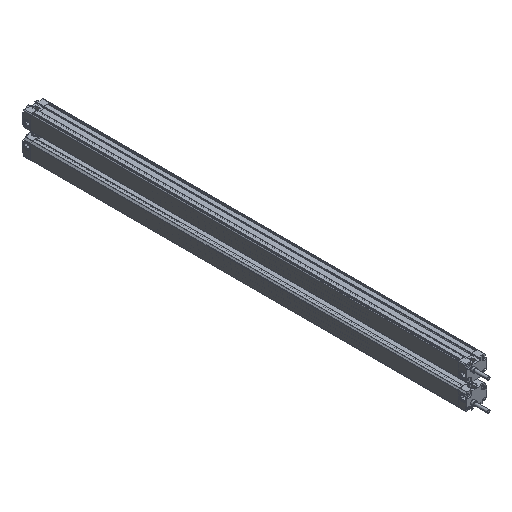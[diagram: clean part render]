
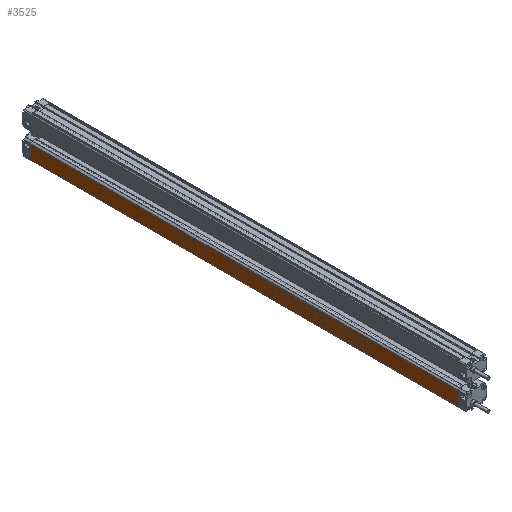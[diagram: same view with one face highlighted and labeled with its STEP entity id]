
A CAD part, isometric view. The second image highlights one B-rep face of the part: STEP entity #3525.
In plain terms, the highlighted planar face has unit normal (-1, 0, 0).
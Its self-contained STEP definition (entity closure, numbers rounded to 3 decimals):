
#340 = EDGE_CURVE ( 'NONE', #4539, #2075, #10472, .T. ) ;
#423 = DIRECTION ( 'NONE',  ( 0., 0., 1. ) ) ;
#738 = EDGE_CURVE ( 'NONE', #2703, #3343, #2583, .T. ) ;
#768 = DIRECTION ( 'NONE',  ( 0., 1., 0. ) ) ;
#1023 = DIRECTION ( 'NONE',  ( 0., 1., 0. ) ) ;
#2075 = VERTEX_POINT ( 'NONE', #10632 ) ;
#2583 = LINE ( 'NONE', #9149, #6534 ) ;
#2703 = VERTEX_POINT ( 'NONE', #4168 ) ;
#3343 = VERTEX_POINT ( 'NONE', #9682 ) ;
#3525 = ADVANCED_FACE ( 'NONE', ( #4943 ), #8449, .T. ) ;
#3575 = ORIENTED_EDGE ( 'NONE', *, *, #738, .T. ) ;
#3750 = CARTESIAN_POINT ( 'NONE',  ( -12.5, 0., -9.2 ) ) ;
#4168 = CARTESIAN_POINT ( 'NONE',  ( -12.5, -540., 8.293 ) ) ;
#4208 = CARTESIAN_POINT ( 'NONE',  ( -12.5, -540., -9.2 ) ) ;
#4369 = CARTESIAN_POINT ( 'NONE',  ( -12.5, -540., -9.2 ) ) ;
#4426 = CARTESIAN_POINT ( 'NONE',  ( -12.5, -540., -9.2 ) ) ;
#4539 = VERTEX_POINT ( 'NONE', #4369 ) ;
#4820 = LINE ( 'NONE', #8840, #9378 ) ;
#4932 = AXIS2_PLACEMENT_3D ( 'NONE', #4208, #8483, #10055 ) ;
#4943 = FACE_OUTER_BOUND ( 'NONE', #10425, .T. ) ;
#5780 = ORIENTED_EDGE ( 'NONE', *, *, #6136, .F. ) ;
#6136 = EDGE_CURVE ( 'NONE', #2075, #3343, #7277, .T. ) ;
#6391 = ORIENTED_EDGE ( 'NONE', *, *, #7027, .T. ) ;
#6534 = VECTOR ( 'NONE', #768, 1000. ) ;
#7007 = VECTOR ( 'NONE', #423, 1000. ) ;
#7027 = EDGE_CURVE ( 'NONE', #4539, #2703, #4820, .T. ) ;
#7277 = LINE ( 'NONE', #3750, #7007 ) ;
#7795 = VECTOR ( 'NONE', #1023, 1000. ) ;
#8252 = ORIENTED_EDGE ( 'NONE', *, *, #340, .F. ) ;
#8449 = PLANE ( 'NONE',  #4932 ) ;
#8483 = DIRECTION ( 'NONE',  ( -1., 0., 0. ) ) ;
#8804 = DIRECTION ( 'NONE',  ( 0., 0., 1. ) ) ;
#8840 = CARTESIAN_POINT ( 'NONE',  ( -12.5, -540., -9.2 ) ) ;
#9149 = CARTESIAN_POINT ( 'NONE',  ( -12.5, -540., 8.293 ) ) ;
#9378 = VECTOR ( 'NONE', #8804, 1000. ) ;
#9682 = CARTESIAN_POINT ( 'NONE',  ( -12.5, 0., 8.293 ) ) ;
#10055 = DIRECTION ( 'NONE',  ( 0., 0., 1. ) ) ;
#10425 = EDGE_LOOP ( 'NONE', ( #5780, #8252, #6391, #3575 ) ) ;
#10472 = LINE ( 'NONE', #4426, #7795 ) ;
#10632 = CARTESIAN_POINT ( 'NONE',  ( -12.5, 0., -9.2 ) ) ;
